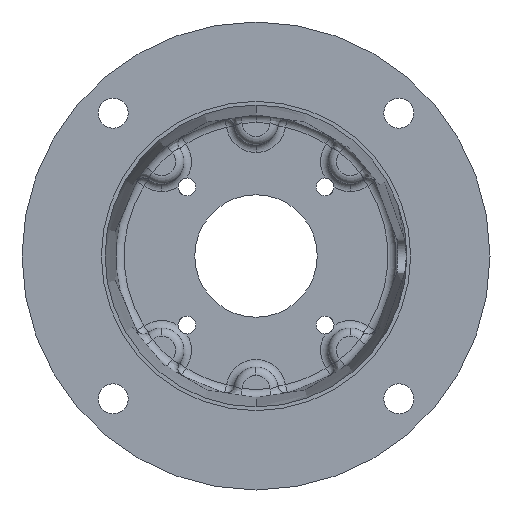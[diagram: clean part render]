
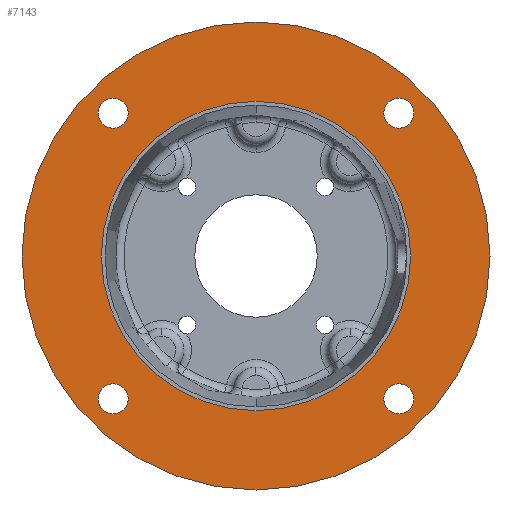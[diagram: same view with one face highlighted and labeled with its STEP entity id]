
A CAD part, front view. The second image highlights one B-rep face of the part: STEP entity #7143.
In plain terms, the highlighted planar face has unit normal (0, -1, 0).
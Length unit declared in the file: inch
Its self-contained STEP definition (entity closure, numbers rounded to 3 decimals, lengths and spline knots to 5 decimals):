
#574 = VERTEX_POINT ( 'NONE', #2244 ) ;
#664 = VERTEX_POINT ( 'NONE', #2571 ) ;
#666 = EDGE_CURVE ( 'NONE', #574, #664, #2545, .T. ) ;
#2244 = CARTESIAN_POINT ( 'NONE',  ( -2.07889, 0., 1.86014 ) ) ;
#2541 = DIRECTION ( 'NONE',  ( 0., 0., 1. ) ) ;
#2542 = DIRECTION ( 'NONE',  ( 0., 1., 0. ) ) ;
#2543 = CARTESIAN_POINT ( 'NONE',  ( -2.07889, 0., 2.07889 ) ) ;
#2544 = AXIS2_PLACEMENT_3D ( 'NONE', #2543, #2542, #2541 ) ;
#2545 = CIRCLE ( 'NONE', #2544, 0.21875 ) ;
#2571 = CARTESIAN_POINT ( 'NONE',  ( -2.07889, 0., 2.29764 ) ) ;
#4068 = EDGE_CURVE ( 'NONE', #6249, #6226, #6728, .T. ) ;
#4124 = EDGE_CURVE ( 'NONE', #4125, #4126, #6812, .T. ) ;
#4125 = VERTEX_POINT ( 'NONE', #6807 ) ;
#4126 = VERTEX_POINT ( 'NONE', #6806 ) ;
#4131 = VERTEX_POINT ( 'NONE', #6864 ) ;
#4132 = VERTEX_POINT ( 'NONE', #6859 ) ;
#4134 = EDGE_CURVE ( 'NONE', #4132, #4131, #6858, .T. ) ;
#4163 = VERTEX_POINT ( 'NONE', #6923 ) ;
#4247 = VERTEX_POINT ( 'NONE', #5979 ) ;
#4249 = EDGE_CURVE ( 'NONE', #4163, #4247, #6028, .T. ) ;
#4287 = VERTEX_POINT ( 'NONE', #6069 ) ;
#4292 = VERTEX_POINT ( 'NONE', #6124 ) ;
#4293 = EDGE_CURVE ( 'NONE', #4292, #4287, #6123, .T. ) ;
#5243 = CARTESIAN_POINT ( 'NONE',  ( 0., 0., -3.405 ) ) ;
#5321 = CARTESIAN_POINT ( 'NONE',  ( 0., 0., 3.405 ) ) ;
#5445 = DIRECTION ( 'NONE',  ( 0., 0., -1. ) ) ;
#5446 = DIRECTION ( 'NONE',  ( 0., -1., 0. ) ) ;
#5447 = CARTESIAN_POINT ( 'NONE',  ( 0., 0., 0. ) ) ;
#5448 = AXIS2_PLACEMENT_3D ( 'NONE', #5447, #5446, #5445 ) ;
#5449 = CIRCLE ( 'NONE', #5448, 3.405 ) ;
#5607 = DIRECTION ( 'NONE',  ( 0., 0., 1. ) ) ;
#5608 = DIRECTION ( 'NONE',  ( 0., 1., 0. ) ) ;
#5609 = CARTESIAN_POINT ( 'NONE',  ( -2.07889, 0., -2.07889 ) ) ;
#5610 = AXIS2_PLACEMENT_3D ( 'NONE', #5609, #5608, #5607 ) ;
#5611 = CIRCLE ( 'NONE', #5610, 0.21875 ) ;
#5612 = DIRECTION ( 'NONE',  ( 0., 0., 1. ) ) ;
#5613 = DIRECTION ( 'NONE',  ( 0., 1., 0. ) ) ;
#5614 = CARTESIAN_POINT ( 'NONE',  ( 2.07889, 0., -2.07889 ) ) ;
#5615 = AXIS2_PLACEMENT_3D ( 'NONE', #5614, #5613, #5612 ) ;
#5616 = CIRCLE ( 'NONE', #5615, 0.21875 ) ;
#5634 = DIRECTION ( 'NONE',  ( 0., 0., 1. ) ) ;
#5635 = DIRECTION ( 'NONE',  ( 0., 1., 0. ) ) ;
#5636 = AXIS2_PLACEMENT_3D ( 'NONE', #5641, #5635, #5634 ) ;
#5637 = CIRCLE ( 'NONE', #5636, 0.21875 ) ;
#5641 = CARTESIAN_POINT ( 'NONE',  ( 2.07889, 0., 2.07889 ) ) ;
#5644 = DIRECTION ( 'NONE',  ( 0., 0., 1. ) ) ;
#5645 = DIRECTION ( 'NONE',  ( 0., 1., 0. ) ) ;
#5646 = AXIS2_PLACEMENT_3D ( 'NONE', #5648, #5645, #5644 ) ;
#5648 = CARTESIAN_POINT ( 'NONE',  ( -2.20315, 0., 0. ) ) ;
#5649 = PLANE ( 'NONE',  #5646 ) ;
#5650 = FACE_OUTER_BOUND ( 'NONE', #7041, .T. ) ;
#5651 = FACE_BOUND ( 'NONE', #7040, .T. ) ;
#5652 = FACE_BOUND ( 'NONE', #7157, .T. ) ;
#5653 = FACE_BOUND ( 'NONE', #7139, .T. ) ;
#5654 = FACE_BOUND ( 'NONE', #7132, .T. ) ;
#5655 = FACE_BOUND ( 'NONE', #7145, .T. ) ;
#5656 = DIRECTION ( 'NONE',  ( 0., 0., -1. ) ) ;
#5657 = DIRECTION ( 'NONE',  ( 0., -1., 0. ) ) ;
#5658 = CARTESIAN_POINT ( 'NONE',  ( 0., 0., 0. ) ) ;
#5659 = AXIS2_PLACEMENT_3D ( 'NONE', #5658, #5657, #5656 ) ;
#5660 = CIRCLE ( 'NONE', #5659, 2.2505 ) ;
#5669 = DIRECTION ( 'NONE',  ( 0., 0., 1. ) ) ;
#5670 = DIRECTION ( 'NONE',  ( 0., 1., 0. ) ) ;
#5671 = AXIS2_PLACEMENT_3D ( 'NONE', #5676, #5670, #5669 ) ;
#5672 = CIRCLE ( 'NONE', #5671, 0.21875 ) ;
#5676 = CARTESIAN_POINT ( 'NONE',  ( -2.07889, 0., 2.07889 ) ) ;
#5979 = CARTESIAN_POINT ( 'NONE',  ( 2.07889, 0., 2.29764 ) ) ;
#6024 = DIRECTION ( 'NONE',  ( 0., 0., 1. ) ) ;
#6025 = DIRECTION ( 'NONE',  ( 0., 1., 0. ) ) ;
#6026 = CARTESIAN_POINT ( 'NONE',  ( 2.07889, 0., 2.07889 ) ) ;
#6027 = AXIS2_PLACEMENT_3D ( 'NONE', #6026, #6025, #6024 ) ;
#6028 = CIRCLE ( 'NONE', #6027, 0.21875 ) ;
#6069 = CARTESIAN_POINT ( 'NONE',  ( -2.07889, 0., -1.86014 ) ) ;
#6119 = DIRECTION ( 'NONE',  ( 0., 0., 1. ) ) ;
#6120 = DIRECTION ( 'NONE',  ( 0., 1., 0. ) ) ;
#6121 = CARTESIAN_POINT ( 'NONE',  ( -2.07889, 0., -2.07889 ) ) ;
#6122 = AXIS2_PLACEMENT_3D ( 'NONE', #6121, #6120, #6119 ) ;
#6123 = CIRCLE ( 'NONE', #6122, 0.21875 ) ;
#6124 = CARTESIAN_POINT ( 'NONE',  ( -2.07889, 0., -2.29764 ) ) ;
#6226 = VERTEX_POINT ( 'NONE', #5243 ) ;
#6249 = VERTEX_POINT ( 'NONE', #5321 ) ;
#6724 = DIRECTION ( 'NONE',  ( 0., 0., -1. ) ) ;
#6725 = DIRECTION ( 'NONE',  ( 0., -1., 0. ) ) ;
#6726 = CARTESIAN_POINT ( 'NONE',  ( 0., 0., 0. ) ) ;
#6727 = AXIS2_PLACEMENT_3D ( 'NONE', #6726, #6725, #6724 ) ;
#6728 = CIRCLE ( 'NONE', #6727, 3.405 ) ;
#6806 = CARTESIAN_POINT ( 'NONE',  ( 2.07889, 0., -1.86014 ) ) ;
#6807 = CARTESIAN_POINT ( 'NONE',  ( 2.07889, 0., -2.29764 ) ) ;
#6808 = DIRECTION ( 'NONE',  ( 0., 0., 1. ) ) ;
#6809 = DIRECTION ( 'NONE',  ( 0., 1., 0. ) ) ;
#6810 = CARTESIAN_POINT ( 'NONE',  ( 2.07889, 0., -2.07889 ) ) ;
#6811 = AXIS2_PLACEMENT_3D ( 'NONE', #6810, #6809, #6808 ) ;
#6812 = CIRCLE ( 'NONE', #6811, 0.21875 ) ;
#6854 = DIRECTION ( 'NONE',  ( 0., 0., -1. ) ) ;
#6855 = DIRECTION ( 'NONE',  ( 0., -1., 0. ) ) ;
#6856 = CARTESIAN_POINT ( 'NONE',  ( 0., 0., 0. ) ) ;
#6857 = AXIS2_PLACEMENT_3D ( 'NONE', #6856, #6855, #6854 ) ;
#6858 = CIRCLE ( 'NONE', #6857, 2.2505 ) ;
#6859 = CARTESIAN_POINT ( 'NONE',  ( 0., 0., 2.2505 ) ) ;
#6864 = CARTESIAN_POINT ( 'NONE',  ( 0., 0., -2.2505 ) ) ;
#6923 = CARTESIAN_POINT ( 'NONE',  ( 2.07889, 0., 1.86014 ) ) ;
#7027 = EDGE_CURVE ( 'NONE', #6226, #6249, #5449, .T. ) ;
#7040 = EDGE_LOOP ( 'NONE', ( #7147, #7043 ) ) ;
#7041 = EDGE_LOOP ( 'NONE', ( #7042, #7045 ) ) ;
#7042 = ORIENTED_EDGE ( 'NONE', *, *, #7027, .T. ) ;
#7043 = ORIENTED_EDGE ( 'NONE', *, *, #4249, .T. ) ;
#7045 = ORIENTED_EDGE ( 'NONE', *, *, #4068, .T. ) ;
#7054 = ORIENTED_EDGE ( 'NONE', *, *, #666, .T. ) ;
#7130 = EDGE_CURVE ( 'NONE', #4126, #4125, #5616, .T. ) ;
#7131 = ORIENTED_EDGE ( 'NONE', *, *, #4134, .F. ) ;
#7132 = EDGE_LOOP ( 'NONE', ( #7140, #7133 ) ) ;
#7133 = ORIENTED_EDGE ( 'NONE', *, *, #4124, .T. ) ;
#7134 = EDGE_CURVE ( 'NONE', #4287, #4292, #5611, .T. ) ;
#7136 = ORIENTED_EDGE ( 'NONE', *, *, #7134, .T. ) ;
#7139 = EDGE_LOOP ( 'NONE', ( #7136, #7151 ) ) ;
#7140 = ORIENTED_EDGE ( 'NONE', *, *, #7130, .T. ) ;
#7142 = EDGE_CURVE ( 'NONE', #4131, #4132, #5660, .T. ) ;
#7143 = ADVANCED_FACE ( 'NONE', ( #5655, #5654, #5653, #5652, #5651, #5650 ), #5649, .F. ) ;
#7144 = ORIENTED_EDGE ( 'NONE', *, *, #7142, .F. ) ;
#7145 = EDGE_LOOP ( 'NONE', ( #7144, #7131 ) ) ;
#7147 = ORIENTED_EDGE ( 'NONE', *, *, #7148, .T. ) ;
#7148 = EDGE_CURVE ( 'NONE', #4247, #4163, #5637, .T. ) ;
#7151 = ORIENTED_EDGE ( 'NONE', *, *, #4293, .T. ) ;
#7154 = ORIENTED_EDGE ( 'NONE', *, *, #7155, .T. ) ;
#7155 = EDGE_CURVE ( 'NONE', #664, #574, #5672, .T. ) ;
#7157 = EDGE_LOOP ( 'NONE', ( #7154, #7054 ) ) ;
